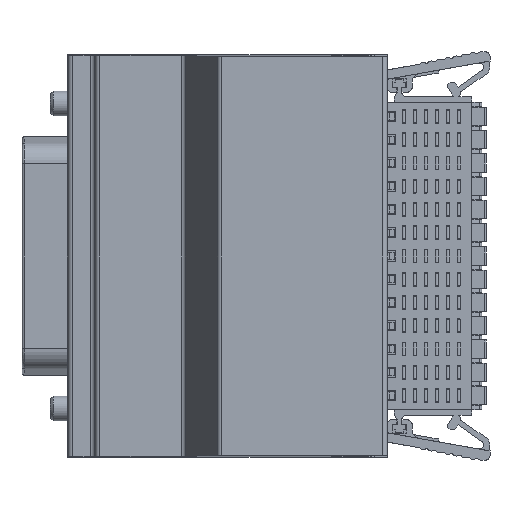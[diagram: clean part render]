
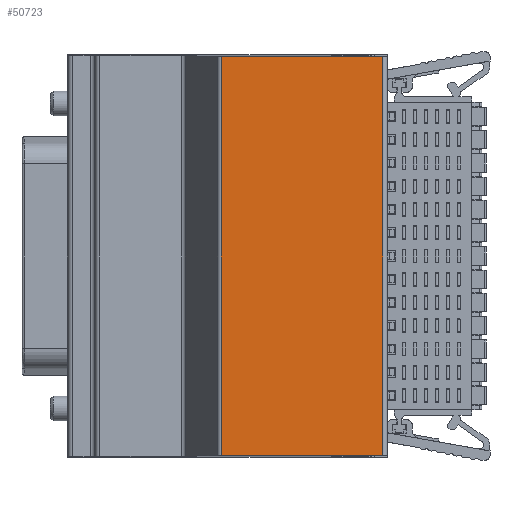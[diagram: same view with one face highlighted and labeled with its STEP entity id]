
A CAD part, front view. The second image highlights one B-rep face of the part: STEP entity #50723.
In plain terms, the highlighted planar face has unit normal (0, -1, 0).
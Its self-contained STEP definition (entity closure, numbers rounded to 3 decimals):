
#25303=DIRECTION('',(0.,0.,1.));
#25304=VECTOR('',#25303,43.501);
#25305=CARTESIAN_POINT('',(0.,-0.5,-21.75));
#25306=LINE('',#25305,#25304);
#25323=DIRECTION('',(1.,0.,0.));
#25324=VECTOR('',#25323,17.631);
#25325=CARTESIAN_POINT('',(-17.631,-0.5,-21.75));
#25326=LINE('',#25325,#25324);
#25330=DIRECTION('',(0.,0.,1.));
#25331=VECTOR('',#25330,43.501);
#25332=CARTESIAN_POINT('',(-17.631,-0.5,-21.75));
#25333=LINE('',#25332,#25331);
#25337=DIRECTION('',(1.,0.,0.));
#25338=VECTOR('',#25337,17.631);
#25339=CARTESIAN_POINT('',(-17.631,-0.5,21.75));
#25340=LINE('',#25339,#25338);
#25350=CARTESIAN_POINT('',(-17.631,-0.5,-21.75));
#25368=CARTESIAN_POINT('',(-17.631,-0.5,21.75));
#26215=VERTEX_POINT('',#25350);
#26216=VERTEX_POINT('',#25368);
#26217=CARTESIAN_POINT('',(0.,-0.5,-21.75));
#26218=VERTEX_POINT('',#26217);
#26219=CARTESIAN_POINT('',(0.,-0.5,21.75));
#26220=VERTEX_POINT('',#26219);
#50711=CARTESIAN_POINT('',(-17.631,-0.5,-22.));
#50712=DIRECTION('',(0.,-1.,0.));
#50713=DIRECTION('',(1.,0.,0.));
#50714=AXIS2_PLACEMENT_3D('',#50711,#50712,#50713);
#50715=PLANE('',#50714);
#50716=ORIENTED_EDGE('',*,*,#29672,.F.);
#50718=ORIENTED_EDGE('',*,*,#50717,.T.);
#50719=ORIENTED_EDGE('',*,*,#44727,.T.);
#50720=ORIENTED_EDGE('',*,*,#50704,.F.);
#50721=EDGE_LOOP('',(#50716,#50718,#50719,#50720));
#50722=FACE_OUTER_BOUND('',#50721,.F.);
#50723=ADVANCED_FACE('',(#50722),#50715,.T.);
#29672=EDGE_CURVE('',#26215,#26218,#25326,.T.);
#44727=EDGE_CURVE('',#26216,#26220,#25340,.T.);
#50704=EDGE_CURVE('',#26218,#26220,#25306,.T.);
#50717=EDGE_CURVE('',#26215,#26216,#25333,.T.);
